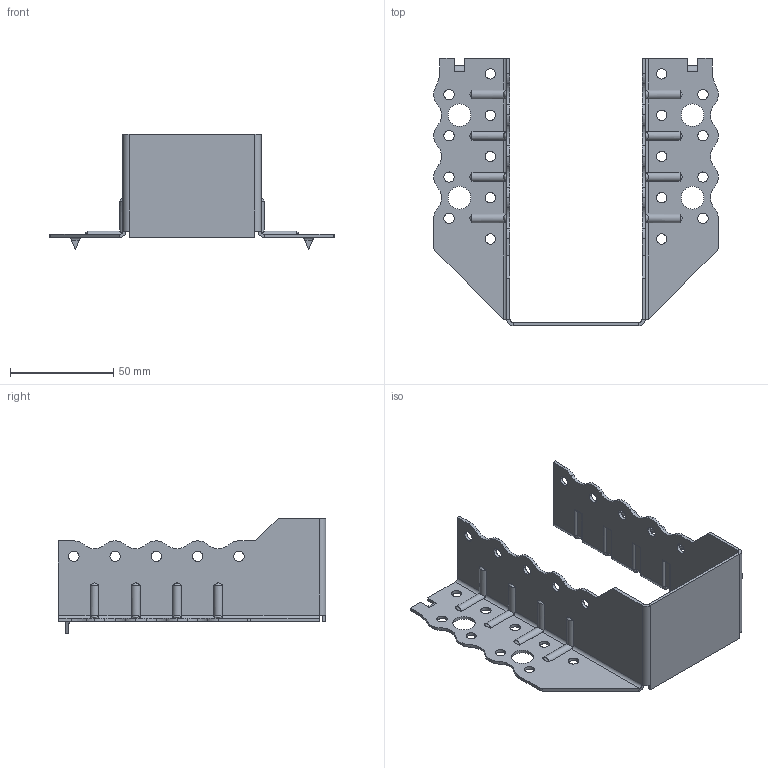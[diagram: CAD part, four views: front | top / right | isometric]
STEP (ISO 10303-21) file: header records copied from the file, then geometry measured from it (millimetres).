
FILE_DESCRIPTION (( 'STEP AP203' ), '1' );
FILE_NAME ('30610TOPK.STEP', '2021-04-08T14:25:37', ( '' ), ( '' ), 'SwSTEP 2.0', 'SolidWorks 2013', '' );
FILE_SCHEMA (( 'CONFIG_CONTROL_DESIGN' ));
Length unit declared in the file: millimetre
Products named in the file (1): 30610TOPK
Bounding box: 138 x 129.5 x 56 mm (x, y, z)
Volume: 29863.4 mm3; surface area: 42683.1 mm2
Topology: 1 solids, 1 shells, 357 faces, 957 edges, 602 vertices
Faces by surface type: cylinder 219, plane 106, torus 16, bspline 16
Entity records: 13124 total; most frequent: CARTESIAN_POINT 4079, ORIENTED_EDGE 1914, DIRECTION 1851, EDGE_CURVE 957, AXIS2_PLACEMENT_3D 672, VERTEX_POINT 602, VECTOR 507, LINE 507
